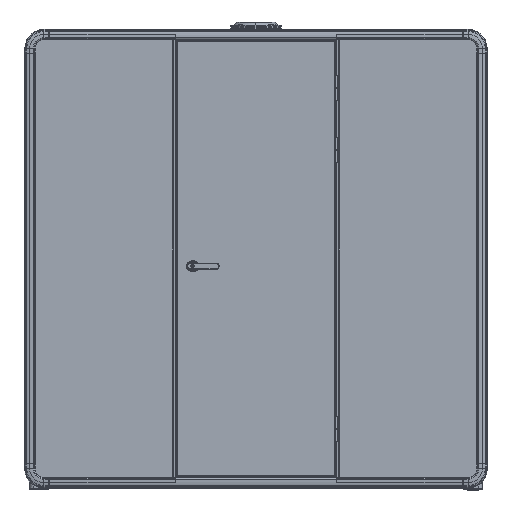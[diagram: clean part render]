
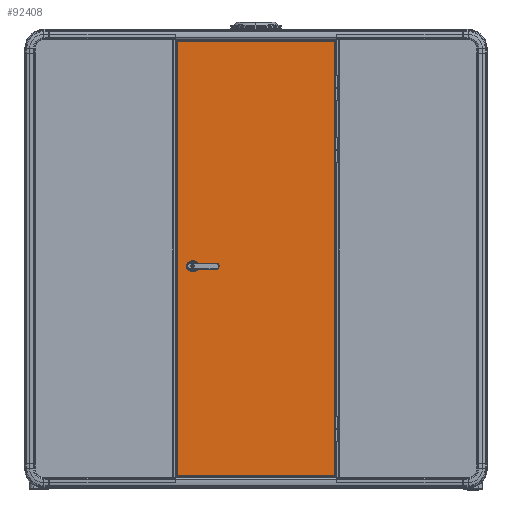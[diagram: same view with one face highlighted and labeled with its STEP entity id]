
A CAD part, top view. The second image highlights one B-rep face of the part: STEP entity #92408.
In plain terms, the highlighted planar face has unit normal (0, 0, 1).
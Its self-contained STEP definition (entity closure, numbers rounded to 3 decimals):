
#700 = LINE ( 'NONE', #102795, #104100 ) ;
#6910 = EDGE_CURVE ( 'NONE', #143215, #169417, #108566, .T. ) ;
#9398 = AXIS2_PLACEMENT_3D ( 'NONE', #20755, #166359, #33736 ) ;
#10997 = FACE_OUTER_BOUND ( 'NONE', #24710, .T. ) ;
#12783 = AXIS2_PLACEMENT_3D ( 'NONE', #137644, #164759, #15057 ) ;
#14680 = DIRECTION ( 'NONE',  ( 0., 1., 0. ) ) ;
#14957 = CARTESIAN_POINT ( 'NONE',  ( 0., -1082., 1300.5 ) ) ;
#15057 = DIRECTION ( 'NONE',  ( -1., 0., 0. ) ) ;
#20144 = CARTESIAN_POINT ( 'NONE',  ( -310.75, -38.5, 1300.5 ) ) ;
#20755 = CARTESIAN_POINT ( 'NONE',  ( -322.25, -38.5, 1300.5 ) ) ;
#20987 = ORIENTED_EDGE ( 'NONE', *, *, #43223, .F. ) ;
#21240 = LINE ( 'NONE', #150240, #92963 ) ;
#22377 = LINE ( 'NONE', #14957, #87713 ) ;
#24196 = EDGE_CURVE ( 'NONE', #117921, #143215, #92948, .T. ) ;
#24710 = EDGE_LOOP ( 'NONE', ( #104096, #118158, #111523, #114216 ) ) ;
#26828 = VECTOR ( 'NONE', #171794, 1000. ) ;
#27611 = ORIENTED_EDGE ( 'NONE', *, *, #104661, .F. ) ;
#33736 = DIRECTION ( 'NONE',  ( 1., 0., 0. ) ) ;
#34713 = DIRECTION ( 'NONE',  ( 0., 0., 1. ) ) ;
#36889 = VERTEX_POINT ( 'NONE', #171722 ) ;
#37635 = ORIENTED_EDGE ( 'NONE', *, *, #72962, .F. ) ;
#38677 = DIRECTION ( 'NONE',  ( 0., 1., 0. ) ) ;
#39268 = CARTESIAN_POINT ( 'NONE',  ( -392., 0., 1300.5 ) ) ;
#40631 = VERTEX_POINT ( 'NONE', #60494 ) ;
#42702 = DIRECTION ( 'NONE',  ( -1., 0., 0. ) ) ;
#43223 = EDGE_CURVE ( 'NONE', #169417, #45365, #84568, .T. ) ;
#45365 = VERTEX_POINT ( 'NONE', #117336 ) ;
#45549 = CARTESIAN_POINT ( 'NONE',  ( 392., 1082., 1300.5 ) ) ;
#47845 = DIRECTION ( 'NONE',  ( 1., 0., 0. ) ) ;
#49881 = LINE ( 'NONE', #39268, #98422 ) ;
#60494 = CARTESIAN_POINT ( 'NONE',  ( -322.25, -60., 1300.5 ) ) ;
#62712 = LINE ( 'NONE', #78057, #26828 ) ;
#65458 = ORIENTED_EDGE ( 'NONE', *, *, #6910, .F. ) ;
#72962 = EDGE_CURVE ( 'NONE', #45365, #40631, #173732, .T. ) ;
#77398 = VERTEX_POINT ( 'NONE', #170315 ) ;
#78057 = CARTESIAN_POINT ( 'NONE',  ( 0., 1082., 1300.5 ) ) ;
#84568 = LINE ( 'NONE', #135367, #160501 ) ;
#87713 = VECTOR ( 'NONE', #42702, 1000. ) ;
#88773 = CARTESIAN_POINT ( 'NONE',  ( -310.75, -17., 1300.5 ) ) ;
#92408 = ADVANCED_FACE ( 'NONE', ( #145984, #10997 ), #122941, .F. ) ;
#92948 = CIRCLE ( 'NONE', #106183, 21.5 ) ;
#92963 = VECTOR ( 'NONE', #14680, 1000. ) ;
#94656 = EDGE_CURVE ( 'NONE', #36889, #149906, #21240, .T. ) ;
#98422 = VECTOR ( 'NONE', #38677, 1000. ) ;
#100187 = CARTESIAN_POINT ( 'NONE',  ( -310.75, -38.5, 1300.5 ) ) ;
#100485 = ORIENTED_EDGE ( 'NONE', *, *, #24196, .F. ) ;
#101636 = DIRECTION ( 'NONE',  ( 1., 0., 0. ) ) ;
#102795 = CARTESIAN_POINT ( 'NONE',  ( -322.25, -60., 1300.5 ) ) ;
#102910 = EDGE_CURVE ( 'NONE', #36889, #114516, #22377, .T. ) ;
#104096 = ORIENTED_EDGE ( 'NONE', *, *, #143993, .F. ) ;
#104100 = VECTOR ( 'NONE', #101636, 1000. ) ;
#104661 = EDGE_CURVE ( 'NONE', #40631, #117921, #700, .T. ) ;
#106183 = AXIS2_PLACEMENT_3D ( 'NONE', #20144, #114446, #47845 ) ;
#108566 = CIRCLE ( 'NONE', #110733, 21.5 ) ;
#110733 = AXIS2_PLACEMENT_3D ( 'NONE', #100187, #34713, #129001 ) ;
#111523 = ORIENTED_EDGE ( 'NONE', *, *, #94656, .T. ) ;
#114216 = ORIENTED_EDGE ( 'NONE', *, *, #156187, .T. ) ;
#114446 = DIRECTION ( 'NONE',  ( 0., 0., 1. ) ) ;
#114516 = VERTEX_POINT ( 'NONE', #142046 ) ;
#117336 = CARTESIAN_POINT ( 'NONE',  ( -322.25, -17., 1300.5 ) ) ;
#117921 = VERTEX_POINT ( 'NONE', #152200 ) ;
#118158 = ORIENTED_EDGE ( 'NONE', *, *, #102910, .F. ) ;
#121242 = DIRECTION ( 'NONE',  ( -1., 0., 0. ) ) ;
#122941 = PLANE ( 'NONE',  #12783 ) ;
#129001 = DIRECTION ( 'NONE',  ( 1., 0., 0. ) ) ;
#135367 = CARTESIAN_POINT ( 'NONE',  ( -322.25, -17., 1300.5 ) ) ;
#137644 = CARTESIAN_POINT ( 'NONE',  ( 0., 0., 1300.5 ) ) ;
#141032 = EDGE_LOOP ( 'NONE', ( #27611, #37635, #20987, #65458, #100485 ) ) ;
#142046 = CARTESIAN_POINT ( 'NONE',  ( -392., -1082., 1300.5 ) ) ;
#143215 = VERTEX_POINT ( 'NONE', #146903 ) ;
#143993 = EDGE_CURVE ( 'NONE', #114516, #77398, #49881, .T. ) ;
#145984 = FACE_BOUND ( 'NONE', #141032, .T. ) ;
#146903 = CARTESIAN_POINT ( 'NONE',  ( -289.25, -38.5, 1300.5 ) ) ;
#149906 = VERTEX_POINT ( 'NONE', #45549 ) ;
#150240 = CARTESIAN_POINT ( 'NONE',  ( 392., 0., 1300.5 ) ) ;
#152200 = CARTESIAN_POINT ( 'NONE',  ( -310.75, -60., 1300.5 ) ) ;
#156187 = EDGE_CURVE ( 'NONE', #149906, #77398, #62712, .T. ) ;
#160501 = VECTOR ( 'NONE', #121242, 1000. ) ;
#164759 = DIRECTION ( 'NONE',  ( 0., 0., -1. ) ) ;
#166359 = DIRECTION ( 'NONE',  ( 0., 0., 1. ) ) ;
#169417 = VERTEX_POINT ( 'NONE', #88773 ) ;
#170315 = CARTESIAN_POINT ( 'NONE',  ( -392., 1082., 1300.5 ) ) ;
#171722 = CARTESIAN_POINT ( 'NONE',  ( 392., -1082., 1300.5 ) ) ;
#171794 = DIRECTION ( 'NONE',  ( -1., 0., 0. ) ) ;
#173732 = CIRCLE ( 'NONE', #9398, 21.5 ) ;
